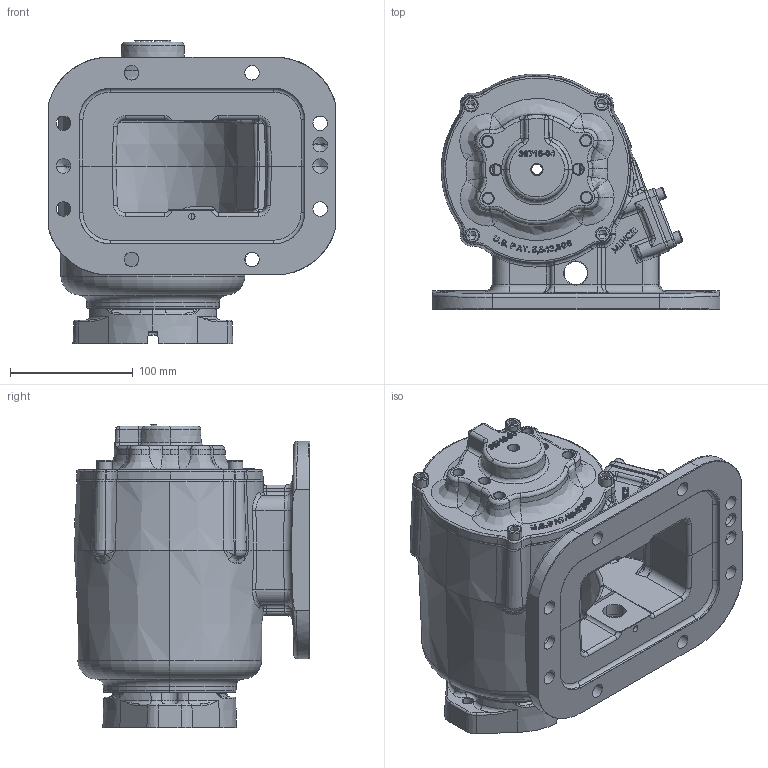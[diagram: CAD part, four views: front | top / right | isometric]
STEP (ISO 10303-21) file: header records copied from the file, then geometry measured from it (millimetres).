
FILE_DESCRIPTION (( 'STEP AP203' ), '1' );
FILE_NAME ('CS8S-XXXXX-E1RX.STEP', '2023-05-01T17:35:44', ( '' ), ( '' ), 'SwSTEP 2.0', 'SolidWorks 2021', '' );
FILE_SCHEMA (( 'CONFIG_CONTROL_DESIGN' ));
Length unit declared in the file: inch
Products named in the file (10): 14TA3997; 14T39141; 19T35237; 01T42182_01T42182; 16t34000; CS8S-XXXXX-E1RX; 19T41118; 15T36717; 11T37790; 10T21017
Assembly tree (15 placements, depth 3):
  CS8S-XXXXX-E1RX
    16t34000
    15T36717
    01T42182_01T42182
    10T21017
    19T35237  x4
    19T41118  x4
    14TA3997
      14T39141
      11T37790
Bounding box: 234.96 x 192.24 x 247.66 mm (x, y, z)
Volume: 1592093.4 mm3; surface area: 427609.6 mm2
Topology: 14 solids, 14 shells, 2081 faces, 5322 edges, 3270 vertices
Faces by surface type: bspline 722, plane 555, cylinder 388, cone 218, torus 174, sphere 24
Entity records: 93838 total; most frequent: CARTESIAN_POINT 50590, ORIENTED_EDGE 9812, DIRECTION 7116, EDGE_CURVE 4906, VERTEX_POINT 3057, AXIS2_PLACEMENT_3D 2600, EDGE_LOOP 2143, ADVANCED_FACE 1949
